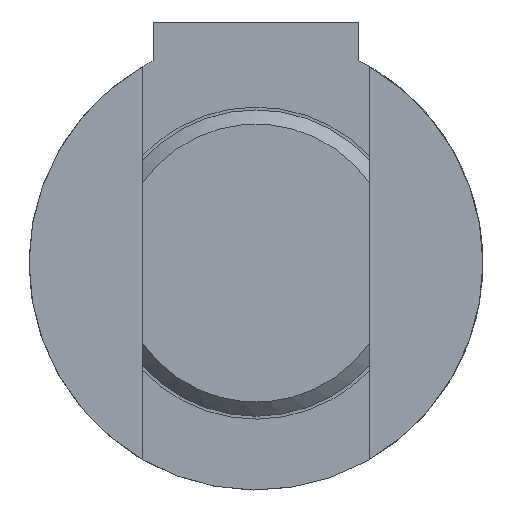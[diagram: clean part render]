
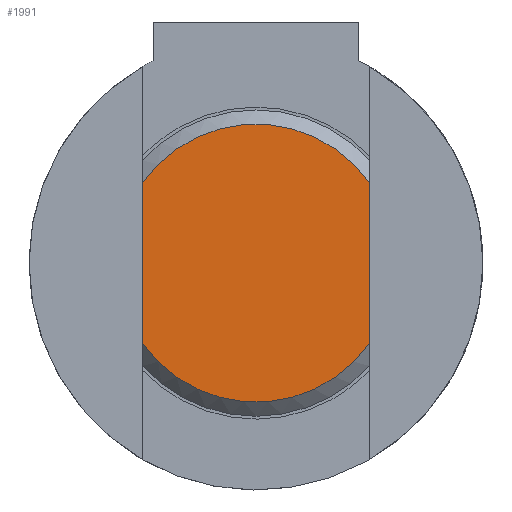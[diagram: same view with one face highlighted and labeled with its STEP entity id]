
A CAD part, left-side view. The second image highlights one B-rep face of the part: STEP entity #1991.
In plain terms, the highlighted planar face has unit normal (-1, 0, 0).
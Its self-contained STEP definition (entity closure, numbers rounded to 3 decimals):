
#1873=CARTESIAN_POINT('Axis2P3D Location',(-38.,0.,0.)) ;
#1877=CARTESIAN_POINT('Vertex',(-38.,-8.,5.66)) ;
#1879=CARTESIAN_POINT('Vertex',(-38.,8.,5.66)) ;
#1932=CARTESIAN_POINT('Line Origine',(-38.,-8.,0.)) ;
#1936=CARTESIAN_POINT('Vertex',(-38.,-8.,-5.66)) ;
#1968=CARTESIAN_POINT('Axis2P3D Location',(-38.,0.,11.)) ;
#1973=CARTESIAN_POINT('Line Origine',(-38.,8.,0.)) ;
#1977=CARTESIAN_POINT('Vertex',(-38.,8.,-5.66)) ;
#1980=CARTESIAN_POINT('Axis2P3D Location',(-38.,0.,0.)) ;
#1874=DIRECTION('Axis2P3D Direction',(-1.,0.,0.)) ;
#1933=DIRECTION('Vector Direction',(0.,0.,-1.)) ;
#1969=DIRECTION('Axis2P3D Direction',(-1.,0.,0.)) ;
#1970=DIRECTION('Axis2P3D XDirection',(0.,1.,0.)) ;
#1974=DIRECTION('Vector Direction',(0.,0.,-1.)) ;
#1981=DIRECTION('Axis2P3D Direction',(-1.,0.,0.)) ;
#1875=AXIS2_PLACEMENT_3D('Circle Axis2P3D',#1873,#1874,$) ;
#1971=AXIS2_PLACEMENT_3D('Plane Axis2P3D',#1968,#1969,#1970) ;
#1982=AXIS2_PLACEMENT_3D('Circle Axis2P3D',#1980,#1981,$) ;
#1986=ORIENTED_EDGE('',*,*,#1938,.F.) ;
#1987=ORIENTED_EDGE('',*,*,#1881,.T.) ;
#1988=ORIENTED_EDGE('',*,*,#1979,.F.) ;
#1989=ORIENTED_EDGE('',*,*,#1984,.T.) ;
#1934=VECTOR('Line Direction',#1933,1.) ;
#1975=VECTOR('Line Direction',#1974,1.) ;
#1991=ADVANCED_FACE('PartBody',(#1990),#1972,.T.) ;
#1876=CIRCLE('generated circle',#1875,9.8) ;
#1983=CIRCLE('generated circle',#1982,9.8) ;
#1881=EDGE_CURVE('',#1878,#1880,#1876,.T.) ;
#1938=EDGE_CURVE('',#1878,#1937,#1935,.T.) ;
#1979=EDGE_CURVE('',#1978,#1880,#1976,.F.) ;
#1984=EDGE_CURVE('',#1978,#1937,#1983,.T.) ;
#1985=EDGE_LOOP('',(#1986,#1987,#1988,#1989)) ;
#1990=FACE_OUTER_BOUND('',#1985,.T.) ;
#1935=LINE('Line',#1932,#1934) ;
#1976=LINE('Line',#1973,#1975) ;
#1972=PLANE('',#1971) ;
#1878=VERTEX_POINT('',#1877) ;
#1880=VERTEX_POINT('',#1879) ;
#1937=VERTEX_POINT('',#1936) ;
#1978=VERTEX_POINT('',#1977) ;
